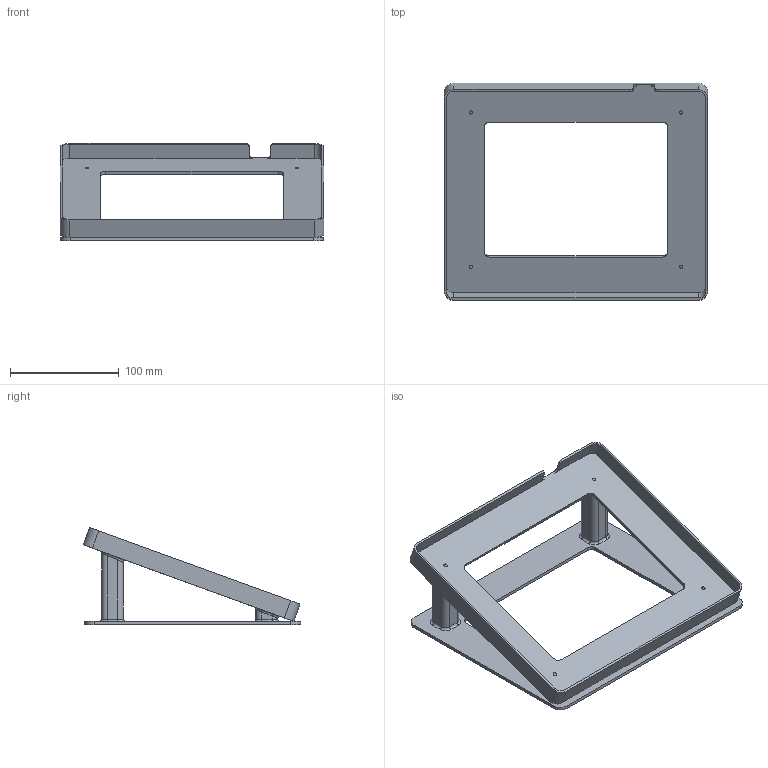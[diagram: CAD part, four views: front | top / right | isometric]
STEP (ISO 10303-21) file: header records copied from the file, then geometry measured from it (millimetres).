
FILE_DESCRIPTION(/* description */ (''),/* implementation_level */ '2;1');
FILE_NAME(/* name */ 'akaimpd218.step',/* time_stamp */ '2025-11-08T21:08:34+01:00',/* author */ (''),/* organization */ (''),/* preprocessor_version */ 'ST-DEVELOPER v20.1',/* originating_system */ 'Autodesk Translation Framework v14.21.0.0',/* authorisation */ '');
FILE_SCHEMA (('AUTOMOTIVE_DESIGN { 1 0 10303 214 3 1 1 }'));
Length unit declared in the file: millimetre
Products named in the file (1): akaimpd218
Bounding box: 242.67 x 200.08 x 89.43 mm (x, y, z)
Volume: 240703.7 mm3; surface area: 153381.2 mm2
Topology: 2 solids, 2 shells, 164 faces, 392 edges, 240 vertices
Faces by surface type: cylinder 80, plane 52, bspline 16, torus 16
Full cylindrical faces by diameter (mm): 3 x8
Entity records: 5276 total; most frequent: CARTESIAN_POINT 1309, DIRECTION 882, ORIENTED_EDGE 784, EDGE_CURVE 392, AXIS2_PLACEMENT_3D 341, VERTEX_POINT 240, LINE 200, VECTOR 200
